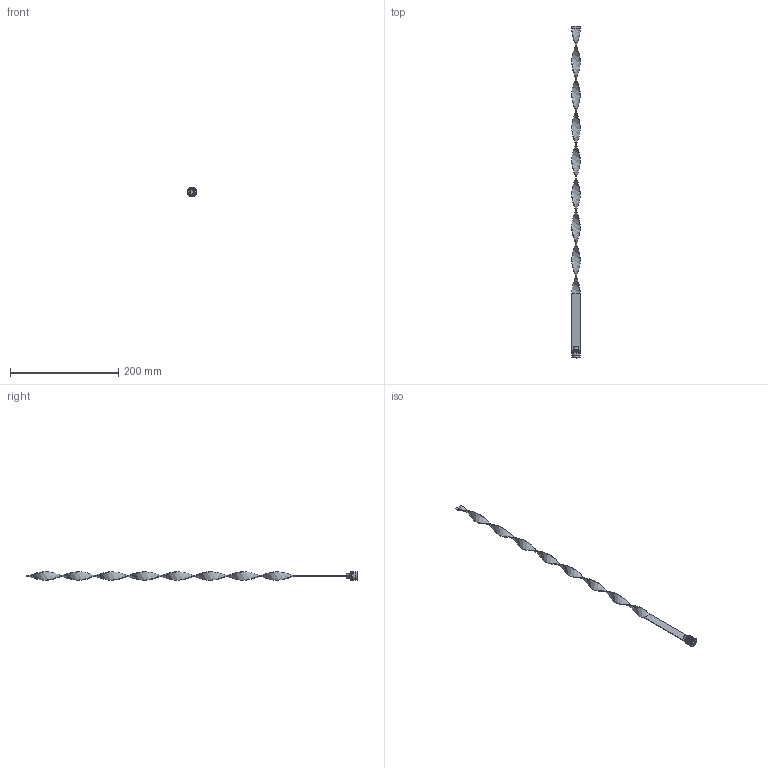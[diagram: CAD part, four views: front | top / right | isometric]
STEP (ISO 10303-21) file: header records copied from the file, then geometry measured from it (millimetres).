
FILE_DESCRIPTION (( 'STEP AP203' ), '1' );
FILE_NAME ('RLS-16Fx600-15,5.STEP', '2015-12-09T15:01:58', ( 'Balzi' ), ( '' ), 'SwSTEP 2.0', 'SolidWorks 2015', '' );
FILE_SCHEMA (( 'CONFIG_CONTROL_DESIGN' ));
Length unit declared in the file: millimetre
Products named in the file (1): RLS-16Fx600-15,5
Bounding box: 17.5 x 614 x 17.5 mm (x, y, z)
Volume: 12228.6 mm3; surface area: 21970 mm2
Topology: 1 solids, 1 shells, 83 faces, 193 edges, 117 vertices
Faces by surface type: plane 35, cone 19, cylinder 17, torus 8, bspline 4
Entity records: 5869 total; most frequent: CARTESIAN_POINT 3904, DIRECTION 406, ORIENTED_EDGE 386, EDGE_CURVE 193, AXIS2_PLACEMENT_3D 151, VERTEX_POINT 117, LINE 104, VECTOR 104
